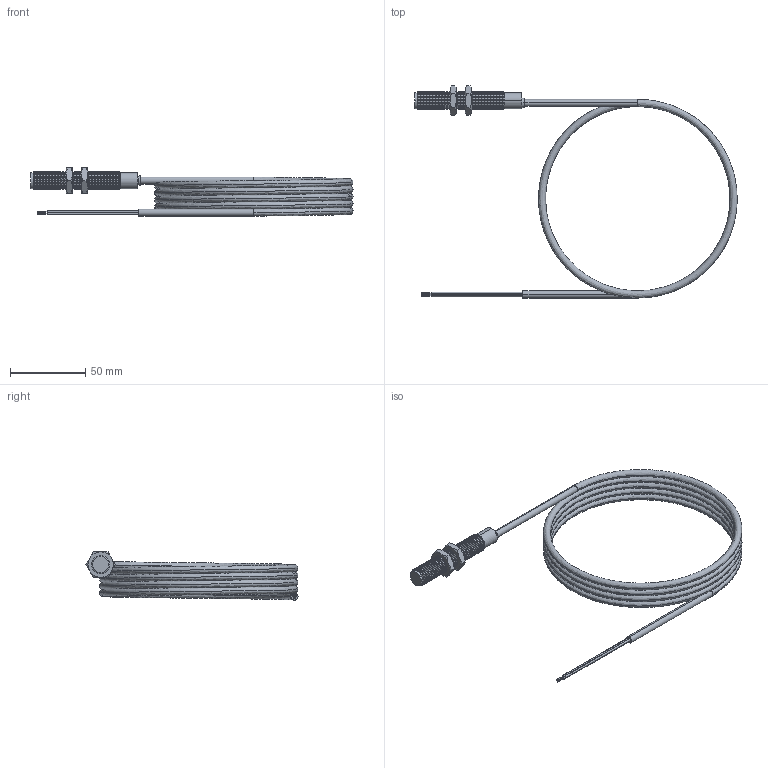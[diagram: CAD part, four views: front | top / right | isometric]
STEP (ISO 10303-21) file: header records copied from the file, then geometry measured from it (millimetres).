
FILE_DESCRIPTION (( 'STEP AP203' ), '1' );
FILE_NAME ('90-XXXX-015.STEP', '2015-08-31T03:17:39', ( 'Sam' ), ( 'Spade' ), 'SwSTEP 2.0', 'SolidWorks 2002296', '' );
FILE_SCHEMA (( 'CONFIG_CONTROL_DESIGN' ));
Length unit declared in the file: inch
Products named in the file (15): 90-XXXX-015; Imported79; Imported78; Imported77; Imported82; Imported81; Imported80; Imported76; Imported75; Imported74; Imported84; Imported73; Imported72; Imported71; Imported83
Assembly tree (14 placements, depth 2):
  90-XXXX-015
    Imported79
    Imported81
    Imported71
    Imported76
    Imported82
    Imported74
    Imported84
    Imported75
    Imported78
    Imported72
    Imported73
    Imported83
    Imported80
    Imported77
Bounding box: 213.75 x 140.61 x 32.04 mm (x, y, z)
Volume: 42866.2 mm3; surface area: 35853.5 mm2
Topology: 14 solids, 14 shells, 497 faces, 1084 edges, 618 vertices
Faces by surface type: cone 296, cylinder 146, plane 43, bspline 12
Entity records: 16690 total; most frequent: CARTESIAN_POINT 3949, DIRECTION 2630, ORIENTED_EDGE 2168, AXIS2_PLACEMENT_3D 1100, EDGE_CURVE 1084, VERTEX_POINT 618, CIRCLE 598, EDGE_LOOP 504
